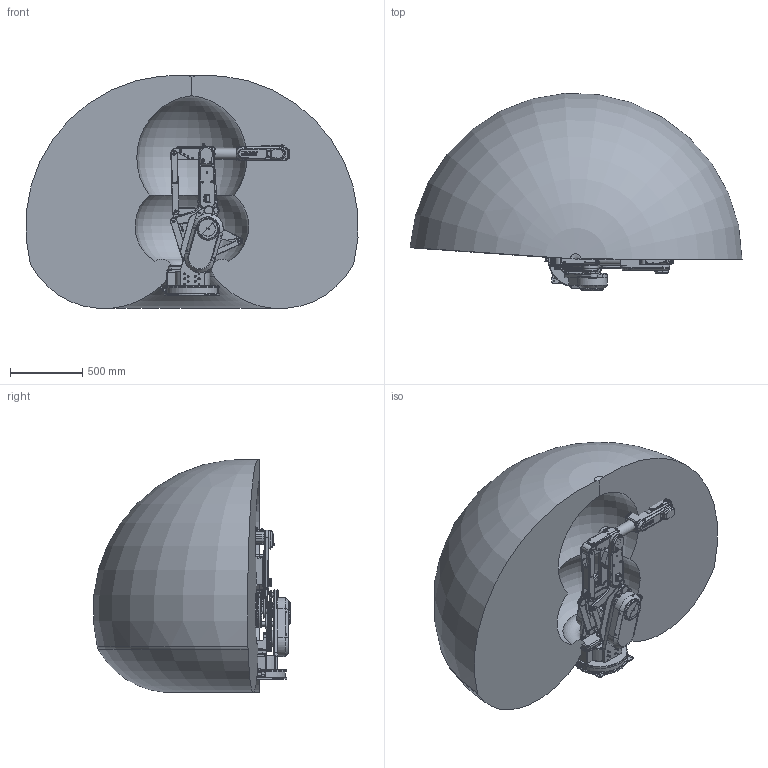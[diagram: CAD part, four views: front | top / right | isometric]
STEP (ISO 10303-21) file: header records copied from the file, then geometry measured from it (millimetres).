
FILE_DESCRIPTION (( 'STEP AP203' ), '1' );
FILE_NAME ('P009306_HORST1000_G2_PT2__7.step', '2025-03-20T10:23:29', ( '' ), ( '' ), 'SwSTEP 2.0', 'SolidWorks 2019', '' );
FILE_SCHEMA (( 'CONFIG_CONTROL_DESIGN' ));
Length unit declared in the file: millimetre
Products named in the file (17): P009306_GK_P7_9_PT1; P009306_GK_P4_5_PT1; P009306_TR1_PT2; P009306_GK_P2_4_PT1; P009952_Arbeitsraum H1000 G2 - halb; P009306_GK_P9_10_PT2_clean; P009306_GK_P1_7_PT1; P009306_TR3_PT2; P009306_SO1_PT2; P009306_GK_P8_9_PT1; P009306_SO2_PT2; P009306_Werkzeugflansch_PT1; P009306_HORST1000_G2_PT2__7; P009306_SC_PT2; P009306_GK_P3_5_PT1; P009306_TR2_PT2; P009306_GK_P5_6_PT2
Assembly tree (16 placements, depth 2):
  P009306_HORST1000_G2_PT2__7
    P009306_SO1_PT2
    P009306_SO2_PT2
    P009306_TR2_PT2
    P009306_TR3_PT2
    P009306_GK_P8_9_PT1
    P009306_GK_P7_9_PT1
    P009306_GK_P1_7_PT1
    P009306_GK_P2_4_PT1
    P009306_GK_P3_5_PT1
    P009306_GK_P4_5_PT1
    P009306_GK_P5_6_PT2
    P009306_Werkzeugflansch_PT1
    P009306_SC_PT2
    P009306_TR1_PT2
    P009306_GK_P9_10_PT2_clean
    P009952_Arbeitsraum H1000 G2 - halb
Bounding box: 2293.86 x 1361.71 x 1607.46 mm (x, y, z)
Volume: 2247179315.2 mm3; surface area: 14165906.2 mm2
Topology: 77 solids, 111 shells, 4792 faces, 11562 edges, 7434 vertices
Faces by surface type: plane 2656, cylinder 1012, cone 602, bspline 380, torus 142
Full cylindrical faces by diameter (mm): 1 x15, 1.2 x5, 3.3 x5, 4 x1, 4.2 x2, 4.4 x2, 5 x14, 5.7 x2, 6 x5, 6.6 x4, 7 x13, 8 x16, 8.2 x3, 8.3 x4, 8.5 x50, 8.9 x2, 10 x26, 10.5 x8, 10.6 x6, 10.8 x11, 11 x28, 11.5 x1, 12 x10, 13 x6, 13.3 x2, 15 x4, 15.3 x1, 15.6 x2, 16 x8, 20 x1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
Entity records: 162412 total; most frequent: CARTESIAN_POINT 53864, ORIENTED_EDGE 21662, DIRECTION 21093, EDGE_CURVE 10833, VERTEX_POINT 7252, AXIS2_PLACEMENT_3D 7229, VECTOR 6635, LINE 6635
